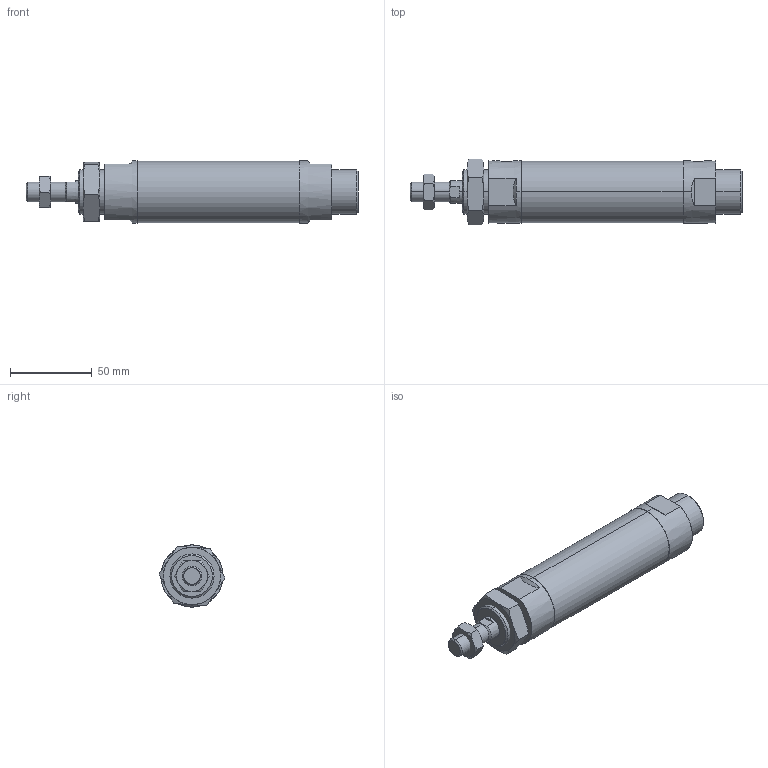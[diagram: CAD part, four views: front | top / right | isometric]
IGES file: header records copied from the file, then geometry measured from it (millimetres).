
Start section: SolidWorks IGES file using analytic representation for surfaces
Global section: file name: C:\Users\Toshiba\Desktop\J#2-32-50-N.IGS; native system: SolidWorks 2014; preprocessor: SolidWorks 2014; author: Toshiba; date: 160308.153308; units: millimetre
Bounding box: 203 x 40.33 x 38 mm (x, y, z)
Surface area: 27928.4 mm2 (no closed solid volume)
Topology: 0 solids, 0 shells, 94 faces, 1652 edges, 1648 vertices
Faces by surface type: bspline 57, revolution 37
